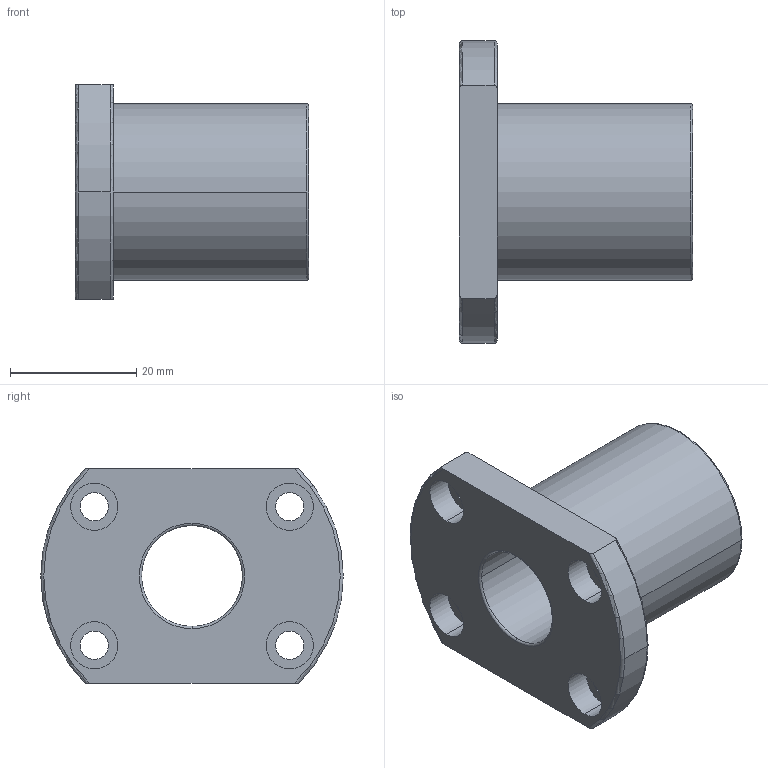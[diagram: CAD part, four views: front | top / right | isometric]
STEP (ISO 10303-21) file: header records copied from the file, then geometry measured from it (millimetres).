
FILE_DESCRIPTION(('FreeCAD Model'),'2;1');
FILE_NAME('Open CASCADE Shape Model','2021-05-03T13:46:30',('Author'),( ''),'Open CASCADE STEP processor 7.5','FreeCAD','Unknown');
FILE_SCHEMA(('AUTOMOTIVE_DESIGN { 1 0 10303 214 1 1 1 1 }'));
Length unit declared in the file: millimetre
Products named in the file (1): linear_lmh16uu
Bounding box: 37 x 48 x 34 mm (x, y, z)
Volume: 19687.5 mm3; surface area: 8316 mm2
Topology: 1 solids, 1 shells, 43 faces, 111 edges, 75 vertices
Faces by surface type: cylinder 24, torus 10, plane 9
Entity records: 3862 total; most frequent: CARTESIAN_POINT 1602, DIRECTION 441, ORIENTED_EDGE 222, PCURVE 222, DEFINITIONAL_REPRESENTATION 222, LINE 189, VECTOR 189, AXIS2_PLACEMENT_3D 117
